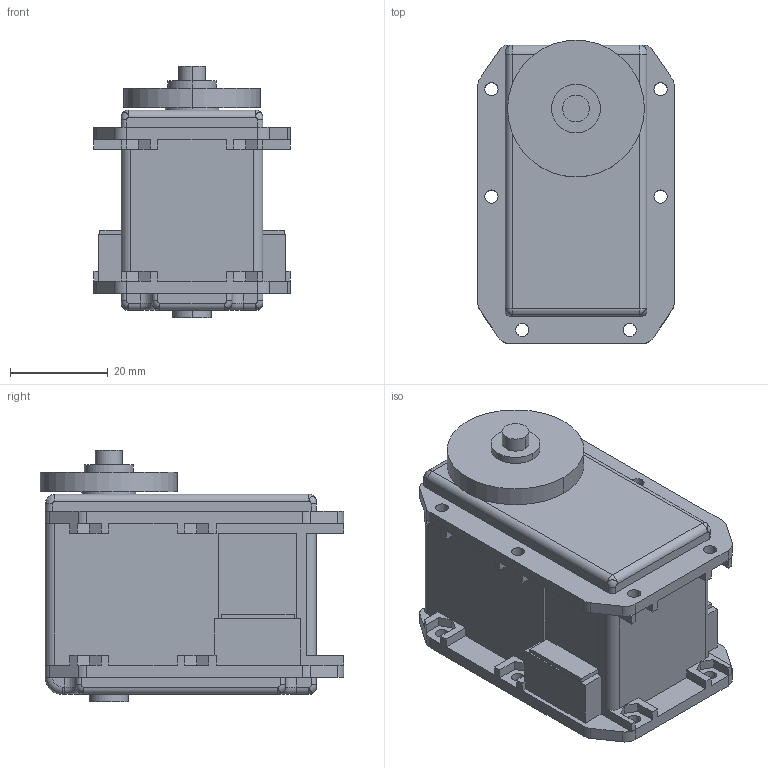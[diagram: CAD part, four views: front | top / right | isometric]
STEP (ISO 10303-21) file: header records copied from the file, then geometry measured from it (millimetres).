
FILE_DESCRIPTION((''),'2;1');
FILE_NAME('DC05_00A_DUMMY_T_NEW','2011-03-04T',('yunever'),(''),'PRO/ENGINEER BY PARAMETRIC TECHNOLOGY CORPORATION, 2009060','PRO/ENGINEER BY PARAMETRIC TECHNOLOGY CORPORATION, 2009060','');
FILE_SCHEMA(('AUTOMOTIVE_DESIGN { 1 0 10303 214 1 1 1 1 }'));
Length unit declared in the file: millimetre
Products named in the file (1): DC05_00A_DUMMY_T_NEW
Bounding box: 40.2 x 62.1 x 51.5 mm (x, y, z)
Volume: 73125.1 mm3; surface area: 15499.2 mm2
Topology: 1 solids, 1 shells, 322 faces, 854 edges, 544 vertices
Faces by surface type: plane 208, cylinder 90, bspline 10, sphere 8, torus 6
Entity records: 12974 total; most frequent: CARTESIAN_POINT 2232, ORIENTED_EDGE 1708, DIRECTION 1652, PRESENTATION_STYLE_ASSIGNMENT 855, STYLED_ITEM 855, CURVE_STYLE 854, EDGE_CURVE 854, VECTOR 632
